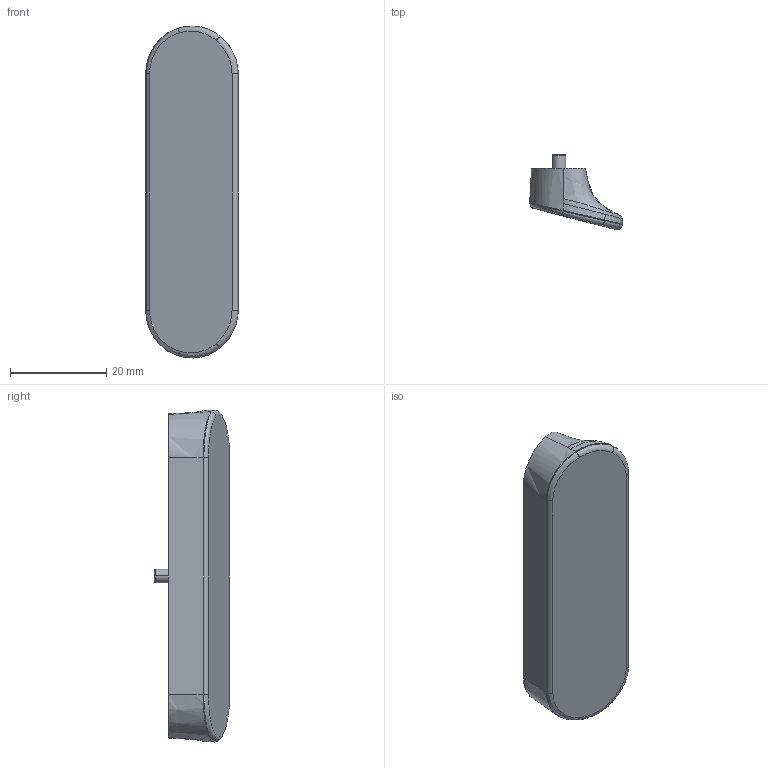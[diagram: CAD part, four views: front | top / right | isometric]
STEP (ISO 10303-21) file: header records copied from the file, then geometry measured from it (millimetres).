
FILE_DESCRIPTION (( 'STEP AP203' ), '1' );
FILE_NAME ('ヶ藷參忒湖荂璃.STEP', '2026-07-08T11:40:36', ( '' ), ( '' ), 'SwSTEP 2.0', 'SolidWorks 2024', '' );
FILE_SCHEMA (( 'CONFIG_CONTROL_DESIGN' ));
Length unit declared in the file: millimetre
Products named in the file (1): 前门把手打印件
Bounding box: 19.25 x 15.67 x 68.99 mm (x, y, z)
Volume: 9230.5 mm3; surface area: 3889.7 mm2
Topology: 1 solids, 1 shells, 57 faces, 125 edges, 73 vertices
Faces by surface type: bspline 36, plane 11, cylinder 8, torus 2
Entity records: 5760 total; most frequent: CARTESIAN_POINT 4669, ORIENTED_EDGE 250, DIRECTION 132, EDGE_CURVE 125, VERTEX_POINT 73, B_SPLINE_CURVE_WITH_KNOTS 60, EDGE_LOOP 60, ADVANCED_FACE 57
